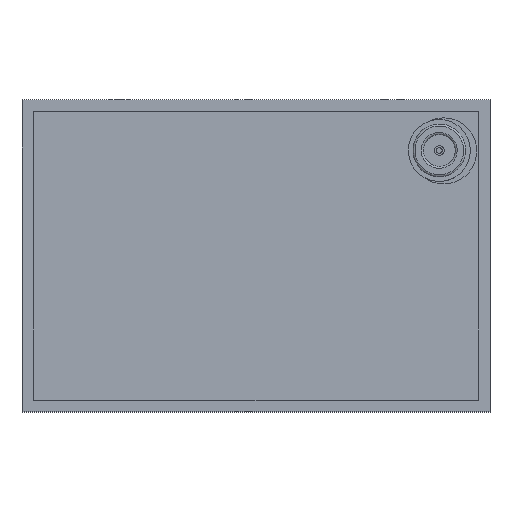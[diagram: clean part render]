
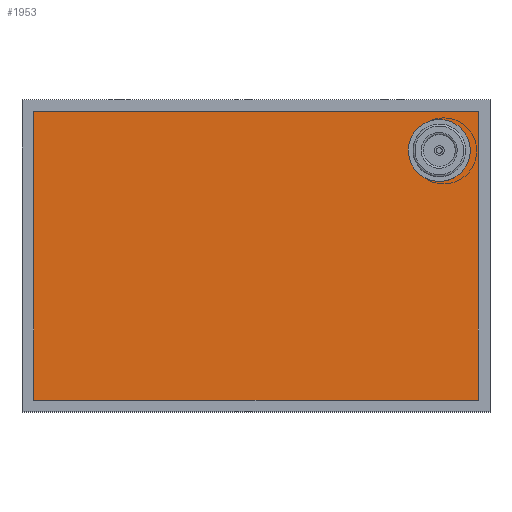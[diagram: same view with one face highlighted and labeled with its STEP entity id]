
A CAD part, top view. The second image highlights one B-rep face of the part: STEP entity #1953.
In plain terms, the highlighted planar face has unit normal (0, 0, 1).
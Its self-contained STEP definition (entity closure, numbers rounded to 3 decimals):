
#98=FACE_BOUND('',#365,.T.);
#133=PLANE('',#2232);
#235=FACE_OUTER_BOUND('',#364,.T.);
#364=EDGE_LOOP('',(#1521,#1522,#1523,#1524));
#365=EDGE_LOOP('',(#1525,#1526));
#512=LINE('',#3217,#656);
#515=LINE('',#3222,#659);
#517=LINE('',#3227,#661);
#518=LINE('',#3229,#662);
#656=VECTOR('',#2591,10.);
#659=VECTOR('',#2596,10.);
#661=VECTOR('',#2602,10.);
#662=VECTOR('',#2605,10.);
#768=CIRCLE('',#2208,2.5);
#769=CIRCLE('',#2209,2.5);
#903=VERTEX_POINT('',#3151);
#904=VERTEX_POINT('',#3152);
#925=VERTEX_POINT('',#3214);
#926=VERTEX_POINT('',#3216);
#927=VERTEX_POINT('',#3220);
#928=VERTEX_POINT('',#3225);
#1111=EDGE_CURVE('',#903,#904,#768,.T.);
#1112=EDGE_CURVE('',#904,#903,#769,.T.);
#1143=EDGE_CURVE('',#925,#926,#512,.T.);
#1146=EDGE_CURVE('',#927,#925,#515,.T.);
#1148=EDGE_CURVE('',#928,#927,#517,.T.);
#1149=EDGE_CURVE('',#926,#928,#518,.T.);
#1521=ORIENTED_EDGE('',*,*,#1148,.F.);
#1522=ORIENTED_EDGE('',*,*,#1149,.F.);
#1523=ORIENTED_EDGE('',*,*,#1143,.F.);
#1524=ORIENTED_EDGE('',*,*,#1146,.F.);
#1525=ORIENTED_EDGE('',*,*,#1111,.T.);
#1526=ORIENTED_EDGE('',*,*,#1112,.T.);
#1953=ADVANCED_FACE('',(#235,#98),#133,.T.);
#2208=AXIS2_PLACEMENT_3D('',#3153,#2529,#2530);
#2209=AXIS2_PLACEMENT_3D('',#3154,#2531,#2532);
#2232=AXIS2_PLACEMENT_3D('',#3230,#2606,#2607);
#2529=DIRECTION('center_axis',(0.,0.,-1.));
#2530=DIRECTION('ref_axis',(1.,0.,0.));
#2531=DIRECTION('center_axis',(0.,0.,-1.));
#2532=DIRECTION('ref_axis',(1.,0.,0.));
#2591=DIRECTION('',(0.,1.,0.));
#2596=DIRECTION('',(-1.,0.,0.));
#2602=DIRECTION('',(0.,-1.,0.));
#2605=DIRECTION('',(1.,0.,0.));
#2606=DIRECTION('center_axis',(0.,0.,1.));
#2607=DIRECTION('ref_axis',(1.,0.,0.));
#3151=CARTESIAN_POINT('',(-24.5,47.,25.));
#3152=CARTESIAN_POINT('',(-29.5,47.,25.));
#3153=CARTESIAN_POINT('Origin',(-27.,47.,25.));
#3154=CARTESIAN_POINT('Origin',(-27.,47.,25.));
#3214=CARTESIAN_POINT('',(-37.,-57.,25.));
#3216=CARTESIAN_POINT('',(-37.,57.,25.));
#3217=CARTESIAN_POINT('',(-37.,-57.,25.));
#3220=CARTESIAN_POINT('',(37.,-57.,25.));
#3222=CARTESIAN_POINT('',(37.,-57.,25.));
#3225=CARTESIAN_POINT('',(37.,57.,25.));
#3227=CARTESIAN_POINT('',(37.,57.,25.));
#3229=CARTESIAN_POINT('',(-37.,57.,25.));
#3230=CARTESIAN_POINT('Origin',(0.,0.,25.));
